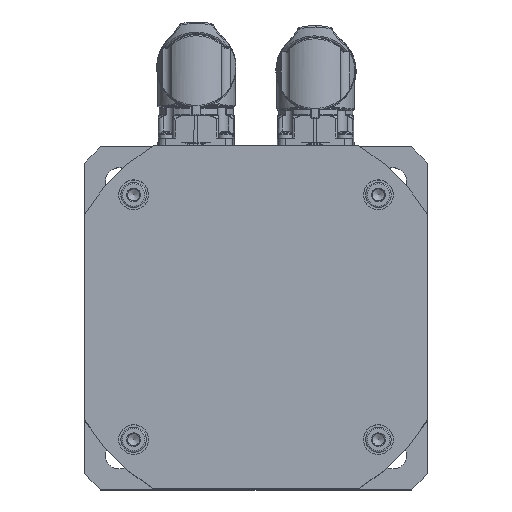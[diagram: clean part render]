
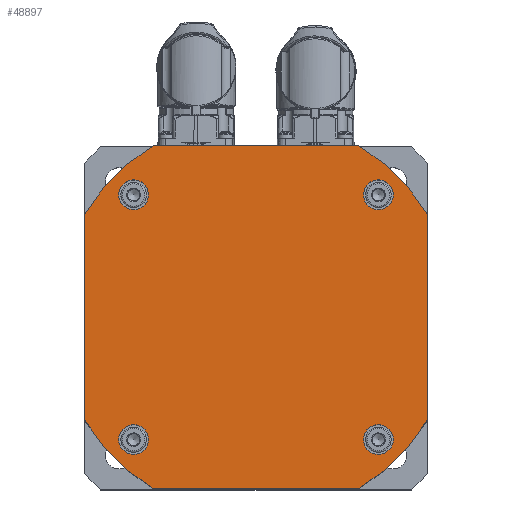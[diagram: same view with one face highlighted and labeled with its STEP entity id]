
A CAD part, top view. The second image highlights one B-rep face of the part: STEP entity #48897.
In plain terms, the highlighted planar face has unit normal (0, 0, 1).
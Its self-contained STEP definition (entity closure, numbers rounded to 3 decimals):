
#7400=FACE_BOUND('',#11566,.T.);
#7401=FACE_BOUND('',#11567,.T.);
#7402=FACE_BOUND('',#11568,.T.);
#7403=FACE_BOUND('',#11569,.T.);
#7404=FACE_BOUND('',#11570,.T.);
#7815=PLANE('',#52114);
#11566=EDGE_LOOP('',(#33661));
#11567=EDGE_LOOP('',(#33662));
#11568=EDGE_LOOP('',(#33663));
#11569=EDGE_LOOP('',(#33664));
#11570=EDGE_LOOP('',(#33665,#33666,#33667,#33668,#33669,#33670,#33671,#33672));
#14995=CIRCLE('',#52083,5.);
#14997=CIRCLE('',#52087,5.);
#14999=CIRCLE('',#52091,5.);
#15001=CIRCLE('',#52095,5.);
#15004=CIRCLE('',#52100,67.);
#15006=CIRCLE('',#52104,67.);
#15008=CIRCLE('',#52108,67.);
#15010=CIRCLE('',#52112,67.);
#17758=LINE('',#70968,#19579);
#17762=LINE('',#70980,#19583);
#17766=LINE('',#70992,#19587);
#17770=LINE('',#71002,#19591);
#19579=VECTOR('',#57903,68.782);
#19583=VECTOR('',#57915,68.782);
#19587=VECTOR('',#57927,68.782);
#19591=VECTOR('',#57939,68.782);
#21450=VERTEX_POINT('',#70932);
#21452=VERTEX_POINT('',#70938);
#21454=VERTEX_POINT('',#70944);
#21456=VERTEX_POINT('',#70950);
#21460=VERTEX_POINT('',#70959);
#21461=VERTEX_POINT('',#70961);
#21463=VERTEX_POINT('',#70967);
#21465=VERTEX_POINT('',#70973);
#21467=VERTEX_POINT('',#70979);
#21469=VERTEX_POINT('',#70985);
#21471=VERTEX_POINT('',#70991);
#21473=VERTEX_POINT('',#70997);
#26098=EDGE_CURVE('',#21450,#21450,#14995,.T.);
#26100=EDGE_CURVE('',#21452,#21452,#14997,.T.);
#26102=EDGE_CURVE('',#21454,#21454,#14999,.T.);
#26104=EDGE_CURVE('',#21456,#21456,#15001,.T.);
#26108=EDGE_CURVE('',#21461,#21460,#15004,.T.);
#26111=EDGE_CURVE('',#21463,#21461,#17758,.T.);
#26114=EDGE_CURVE('',#21465,#21463,#15006,.T.);
#26117=EDGE_CURVE('',#21467,#21465,#17762,.T.);
#26120=EDGE_CURVE('',#21469,#21467,#15008,.T.);
#26123=EDGE_CURVE('',#21471,#21469,#17766,.T.);
#26126=EDGE_CURVE('',#21473,#21471,#15010,.T.);
#26129=EDGE_CURVE('',#21460,#21473,#17770,.T.);
#33661=ORIENTED_EDGE('',*,*,#26098,.T.);
#33662=ORIENTED_EDGE('',*,*,#26100,.T.);
#33663=ORIENTED_EDGE('',*,*,#26102,.T.);
#33664=ORIENTED_EDGE('',*,*,#26104,.T.);
#33665=ORIENTED_EDGE('',*,*,#26129,.T.);
#33666=ORIENTED_EDGE('',*,*,#26126,.T.);
#33667=ORIENTED_EDGE('',*,*,#26123,.T.);
#33668=ORIENTED_EDGE('',*,*,#26120,.T.);
#33669=ORIENTED_EDGE('',*,*,#26117,.T.);
#33670=ORIENTED_EDGE('',*,*,#26114,.T.);
#33671=ORIENTED_EDGE('',*,*,#26111,.T.);
#33672=ORIENTED_EDGE('',*,*,#26108,.T.);
#48897=ADVANCED_FACE('',(#7400,#7401,#7402,#7403,#7404),#7815,.T.);
#52083=AXIS2_PLACEMENT_3D('',#70933,#57862,#57863);
#52087=AXIS2_PLACEMENT_3D('',#70939,#57870,#57871);
#52091=AXIS2_PLACEMENT_3D('',#70945,#57878,#57879);
#52095=AXIS2_PLACEMENT_3D('',#70951,#57886,#57887);
#52100=AXIS2_PLACEMENT_3D('',#70962,#57897,#57898);
#52104=AXIS2_PLACEMENT_3D('',#70974,#57909,#57910);
#52108=AXIS2_PLACEMENT_3D('',#70986,#57921,#57922);
#52112=AXIS2_PLACEMENT_3D('',#70998,#57933,#57934);
#52114=AXIS2_PLACEMENT_3D('',#71003,#57940,#57941);
#57862=DIRECTION('center_axis',(0.,0.,-1.));
#57863=DIRECTION('ref_axis',(0.,-1.,0.));
#57870=DIRECTION('center_axis',(0.,0.,-1.));
#57871=DIRECTION('ref_axis',(-1.,0.,0.));
#57878=DIRECTION('center_axis',(0.,0.,-1.));
#57879=DIRECTION('ref_axis',(0.,1.,0.));
#57886=DIRECTION('center_axis',(0.,0.,-1.));
#57887=DIRECTION('ref_axis',(1.,0.,0.));
#57897=DIRECTION('center_axis',(0.,0.,1.));
#57898=DIRECTION('ref_axis',(0.858,0.513,0.));
#57903=DIRECTION('',(0.,1.,0.));
#57909=DIRECTION('center_axis',(0.,0.,1.));
#57910=DIRECTION('ref_axis',(0.513,-0.858,0.));
#57915=DIRECTION('',(1.,0.,0.));
#57921=DIRECTION('center_axis',(0.,0.,1.));
#57922=DIRECTION('ref_axis',(-0.858,-0.513,0.));
#57927=DIRECTION('',(0.,-1.,0.));
#57933=DIRECTION('center_axis',(0.,0.,1.));
#57934=DIRECTION('ref_axis',(-0.513,0.858,0.));
#57939=DIRECTION('',(-1.,0.,0.));
#57940=DIRECTION('center_axis',(0.,0.,1.));
#57941=DIRECTION('ref_axis',(1.,0.,0.));
#70932=CARTESIAN_POINT('',(41.012,-46.012,240.5));
#70933=CARTESIAN_POINT('Origin',(41.012,-41.012,240.5));
#70938=CARTESIAN_POINT('',(-46.012,-41.012,240.5));
#70939=CARTESIAN_POINT('Origin',(-41.012,-41.012,240.5));
#70944=CARTESIAN_POINT('',(-41.012,46.012,240.5));
#70945=CARTESIAN_POINT('Origin',(-41.012,41.012,240.5));
#70950=CARTESIAN_POINT('',(46.012,41.012,240.5));
#70951=CARTESIAN_POINT('Origin',(41.012,41.012,240.5));
#70959=CARTESIAN_POINT('',(34.391,57.5,240.5));
#70961=CARTESIAN_POINT('',(57.5,34.391,240.5));
#70962=CARTESIAN_POINT('Origin',(0.,0.,240.5));
#70967=CARTESIAN_POINT('',(57.5,-34.391,240.5));
#70968=CARTESIAN_POINT('',(57.5,-57.5,240.5));
#70973=CARTESIAN_POINT('',(34.391,-57.5,240.5));
#70974=CARTESIAN_POINT('Origin',(0.,0.,240.5));
#70979=CARTESIAN_POINT('',(-34.391,-57.5,240.5));
#70980=CARTESIAN_POINT('',(-57.5,-57.5,240.5));
#70985=CARTESIAN_POINT('',(-57.5,-34.391,240.5));
#70986=CARTESIAN_POINT('Origin',(0.,0.,240.5));
#70991=CARTESIAN_POINT('',(-57.5,34.391,240.5));
#70992=CARTESIAN_POINT('',(-57.5,57.5,240.5));
#70997=CARTESIAN_POINT('',(-34.391,57.5,240.5));
#70998=CARTESIAN_POINT('Origin',(0.,0.,240.5));
#71002=CARTESIAN_POINT('',(57.5,57.5,240.5));
#71003=CARTESIAN_POINT('Origin',(0.,0.,
240.5));
